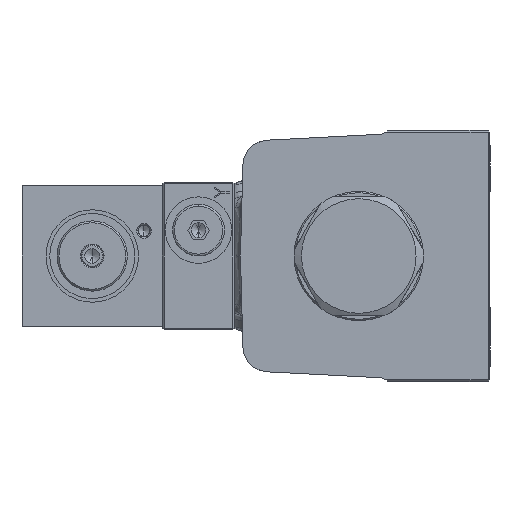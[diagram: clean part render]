
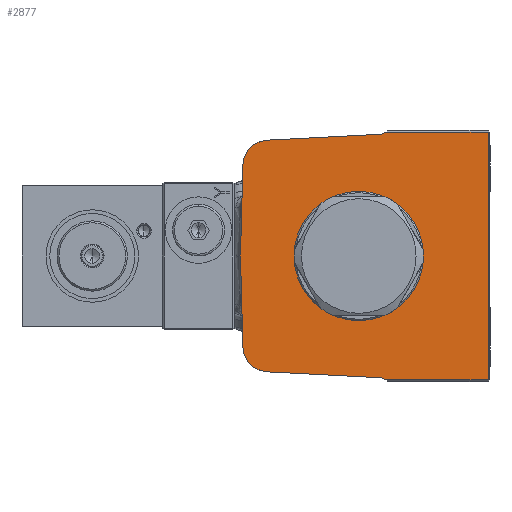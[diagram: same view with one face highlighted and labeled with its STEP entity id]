
A CAD part, left-side view. The second image highlights one B-rep face of the part: STEP entity #2877.
In plain terms, the highlighted planar face has unit normal (-1, 0, 0).
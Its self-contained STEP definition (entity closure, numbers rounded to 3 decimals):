
#104 = ORIENTED_EDGE ( 'NONE', *, *, #79590, .T. ) ;
#792 = VERTEX_POINT ( 'NONE', #77640 ) ;
#1327 = DIRECTION ( 'NONE',  ( 0., -0.999, 0.052 ) ) ;
#2067 = CARTESIAN_POINT ( 'NONE',  ( -46.6, -35., 33.5 ) ) ;
#2520 = CARTESIAN_POINT ( 'NONE',  ( -46.6, 24.36, 24.347 ) ) ;
#2870 = CARTESIAN_POINT ( 'NONE',  ( -46.6, 24.36, -24.347 ) ) ;
#2877 = ADVANCED_FACE ( 'NONE', ( #41034, #34277 ), #29740, .T. ) ;
#4327 = EDGE_CURVE ( 'NONE', #30323, #11923, #21580, .T. ) ;
#4985 = EDGE_CURVE ( 'NONE', #71315, #36658, #76847, .T. ) ;
#5297 = ORIENTED_EDGE ( 'NONE', *, *, #70750, .T. ) ;
#5805 = ORIENTED_EDGE ( 'NONE', *, *, #55454, .T. ) ;
#5940 = EDGE_CURVE ( 'NONE', #9989, #63323, #8603, .T. ) ;
#6409 = DIRECTION ( 'NONE',  ( 0., 1., 0. ) ) ;
#6640 = DIRECTION ( 'NONE',  ( -1., 0., 0. ) ) ;
#6935 = CARTESIAN_POINT ( 'NONE',  ( -46.6, 24.726, -31.337 ) ) ;
#7236 = AXIS2_PLACEMENT_3D ( 'NONE', #67856, #30676, #74115 ) ;
#7575 = CARTESIAN_POINT ( 'NONE',  ( -46.6, 1.706, 32.544 ) ) ;
#7814 = CARTESIAN_POINT ( 'NONE',  ( -46.6, 24.726, 31.337 ) ) ;
#8603 = LINE ( 'NONE', #49736, #72643 ) ;
#8768 = DIRECTION ( 'NONE',  ( 0., 0., 1. ) ) ;
#9080 = CARTESIAN_POINT ( 'NONE',  ( -46.6, 1.706, -32.544 ) ) ;
#9131 = DIRECTION ( 'NONE',  ( 0., 0., 1. ) ) ;
#9216 = CARTESIAN_POINT ( 'NONE',  ( -46.6, -5.693, 35.936 ) ) ;
#9989 = VERTEX_POINT ( 'NONE', #2067 ) ;
#10179 = DIRECTION ( 'NONE',  ( -1., 0., 0. ) ) ;
#11184 = CIRCLE ( 'NONE', #7236, 3. ) ;
#11923 = VERTEX_POINT ( 'NONE', #22896 ) ;
#11922 = CARTESIAN_POINT ( 'NONE',  ( -46.6, -35., -34. ) ) ;
#11989 = DIRECTION ( 'NONE',  ( 0., -0.026, 1. ) ) ;
#12814 = LINE ( 'NONE', #11922, #51600 ) ;
#13505 = CARTESIAN_POINT ( 'NONE',  ( -46.6, -7.444, -33.5 ) ) ;
#13563 = CIRCLE ( 'NONE', #71247, 3. ) ;
#14332 = VERTEX_POINT ( 'NONE', #48713 ) ;
#15409 = DIRECTION ( 'NONE',  ( 0., 0., 1. ) ) ;
#15543 = EDGE_LOOP ( 'NONE', ( #30458, #76128 ) ) ;
#15559 = CARTESIAN_POINT ( 'NONE',  ( -46.6, -35., -33.5 ) ) ;
#15616 = VERTEX_POINT ( 'NONE', #7814 ) ;
#16470 = ORIENTED_EDGE ( 'NONE', *, *, #4985, .F. ) ;
#17361 = EDGE_CURVE ( 'NONE', #71315, #11923, #77998, .T. ) ;
#18110 = DIRECTION ( 'NONE',  ( 0., 0., 1. ) ) ;
#19526 = CARTESIAN_POINT ( 'NONE',  ( -46.6, -5.85, -32.94 ) ) ;
#21041 = EDGE_LOOP ( 'NONE', ( #31313, #41982, #59490, #47614, #104, #69906, #5805, #16470, #38717, #38217, #5297 ) ) ;
#21580 = CIRCLE ( 'NONE', #22058, 7. ) ;
#22058 = AXIS2_PLACEMENT_3D ( 'NONE', #2870, #46216, #9131 ) ;
#22896 = CARTESIAN_POINT ( 'NONE',  ( -46.6, 31.358, -24.53 ) ) ;
#26912 = CARTESIAN_POINT ( 'NONE',  ( -46.6, 31.978, -0.837 ) ) ;
#27657 = AXIS2_PLACEMENT_3D ( 'NONE', #31510, #74960, #37747 ) ;
#27900 = LINE ( 'NONE', #9080, #44415 ) ;
#29740 = PLANE ( 'NONE',  #27657 ) ;
#30323 = VERTEX_POINT ( 'NONE', #6935 ) ;
#30383 = VECTOR ( 'NONE', #70369, 1000. ) ;
#30458 = ORIENTED_EDGE ( 'NONE', *, *, #64485, .F. ) ;
#30676 = DIRECTION ( 'NONE',  ( 1., 0., 0. ) ) ;
#31313 = ORIENTED_EDGE ( 'NONE', *, *, #65459, .T. ) ;
#31510 = CARTESIAN_POINT ( 'NONE',  ( -46.6, -35.5, -34. ) ) ;
#32930 = LINE ( 'NONE', #7575, #47502 ) ;
#33208 = EDGE_CURVE ( 'NONE', #15616, #792, #32930, .T. ) ;
#33663 = CARTESIAN_POINT ( 'NONE',  ( -46.6, 31.358, 24.53 ) ) ;
#34277 = FACE_BOUND ( 'NONE', #15543, .T. ) ;
#34983 = CARTESIAN_POINT ( 'NONE',  ( -46.6, -7.444, 33.5 ) ) ;
#35543 = EDGE_CURVE ( 'NONE', #72306, #9989, #12814, .T. ) ;
#36658 = VERTEX_POINT ( 'NONE', #33663 ) ;
#37747 = DIRECTION ( 'NONE',  ( 0., 0., 1. ) ) ;
#37933 = EDGE_CURVE ( 'NONE', #49688, #14332, #76494, .T. ) ;
#38217 = ORIENTED_EDGE ( 'NONE', *, *, #4327, .F. ) ;
#38717 = ORIENTED_EDGE ( 'NONE', *, *, #17361, .T. ) ;
#40600 = CARTESIAN_POINT ( 'NONE',  ( -46.6, 32., 0. ) ) ;
#41030 = CARTESIAN_POINT ( 'NONE',  ( -46.6, -35.5, -33.5 ) ) ;
#41034 = FACE_OUTER_BOUND ( 'NONE', #21041, .T. ) ;
#41810 = VECTOR ( 'NONE', #11989, 1000. ) ;
#41809 = CIRCLE ( 'NONE', #51677, 16. ) ;
#41982 = ORIENTED_EDGE ( 'NONE', *, *, #54985, .T. ) ;
#42576 = CARTESIAN_POINT ( 'NONE',  ( -46.6, 31.978, 0.837 ) ) ;
#42619 = CARTESIAN_POINT ( 'NONE',  ( -46.6, 0., 0. ) ) ;
#44387 = CIRCLE ( 'NONE', #60651, 7. ) ;
#44415 = VECTOR ( 'NONE', #58701, 1000. ) ;
#45870 = DIRECTION ( 'NONE',  ( -1., 0., 0. ) ) ;
#46216 = DIRECTION ( 'NONE',  ( 1., 0., 0. ) ) ;
#47307 = CARTESIAN_POINT ( 'NONE',  ( -46.6, 0., 0. ) ) ;
#47319 = DIRECTION ( 'NONE',  ( 0., -1., 0. ) ) ;
#47502 = VECTOR ( 'NONE', #1327, 1000. ) ;
#47614 = ORIENTED_EDGE ( 'NONE', *, *, #5940, .T. ) ;
#48175 = CARTESIAN_POINT ( 'NONE',  ( -46.6, 16., 0. ) ) ;
#48713 = CARTESIAN_POINT ( 'NONE',  ( -46.6, -16., 0. ) ) ;
#49688 = VERTEX_POINT ( 'NONE', #48175 ) ;
#49736 = CARTESIAN_POINT ( 'NONE',  ( -46.6, -35.5, 33.5 ) ) ;
#49965 = DIRECTION ( 'NONE',  ( 0., -1., 0. ) ) ;
#51600 = VECTOR ( 'NONE', #18110, 1000. ) ;
#51677 = AXIS2_PLACEMENT_3D ( 'NONE', #42619, #6640, #49965 ) ;
#52527 = DIRECTION ( 'NONE',  ( 1., 0., 0. ) ) ;
#53518 = DIRECTION ( 'NONE',  ( 0., -1., 0. ) ) ;
#54985 = EDGE_CURVE ( 'NONE', #58917, #72306, #75675, .T. ) ;
#55454 = EDGE_CURVE ( 'NONE', #15616, #36658, #44387, .T. ) ;
#58701 = DIRECTION ( 'NONE',  ( 0., -0.999, -0.052 ) ) ;
#58917 = VERTEX_POINT ( 'NONE', #13505 ) ;
#59490 = ORIENTED_EDGE ( 'NONE', *, *, #35543, .T. ) ;
#60651 = AXIS2_PLACEMENT_3D ( 'NONE', #2520, #45870, #8768 ) ;
#63323 = VERTEX_POINT ( 'NONE', #34983 ) ;
#64485 = EDGE_CURVE ( 'NONE', #14332, #49688, #41809, .T. ) ;
#65035 = AXIS2_PLACEMENT_3D ( 'NONE', #47307, #10179, #53518 ) ;
#65459 = EDGE_CURVE ( 'NONE', #66304, #58917, #11184, .T. ) ;
#66304 = VERTEX_POINT ( 'NONE', #19526 ) ;
#67856 = CARTESIAN_POINT ( 'NONE',  ( -46.6, -5.693, -35.936 ) ) ;
#67858 = VECTOR ( 'NONE', #47319, 1000. ) ;
#69906 = ORIENTED_EDGE ( 'NONE', *, *, #33208, .F. ) ;
#70369 = DIRECTION ( 'NONE',  ( 0., -0.026, -1. ) ) ;
#70750 = EDGE_CURVE ( 'NONE', #30323, #66304, #27900, .T. ) ;
#71247 = AXIS2_PLACEMENT_3D ( 'NONE', #9216, #52527, #15409 ) ;
#71315 = VERTEX_POINT ( 'NONE', #40600 ) ;
#72306 = VERTEX_POINT ( 'NONE', #15559 ) ;
#72643 = VECTOR ( 'NONE', #6409, 1000. ) ;
#74115 = DIRECTION ( 'NONE',  ( 0., 0., 1. ) ) ;
#74960 = DIRECTION ( 'NONE',  ( -1., 0., 0. ) ) ;
#75675 = LINE ( 'NONE', #41030, #67858 ) ;
#76128 = ORIENTED_EDGE ( 'NONE', *, *, #37933, .F. ) ;
#76494 = CIRCLE ( 'NONE', #65035, 16. ) ;
#76847 = LINE ( 'NONE', #42576, #41810 ) ;
#77640 = CARTESIAN_POINT ( 'NONE',  ( -46.6, -5.85, 32.94 ) ) ;
#77998 = LINE ( 'NONE', #26912, #30383 ) ;
#79590 = EDGE_CURVE ( 'NONE', #63323, #792, #13563, .T. ) ;
